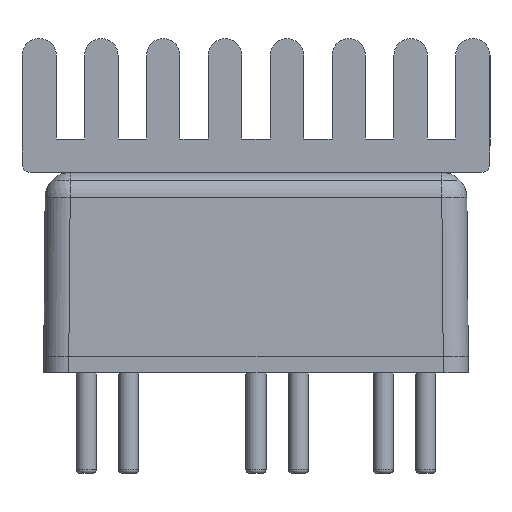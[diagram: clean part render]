
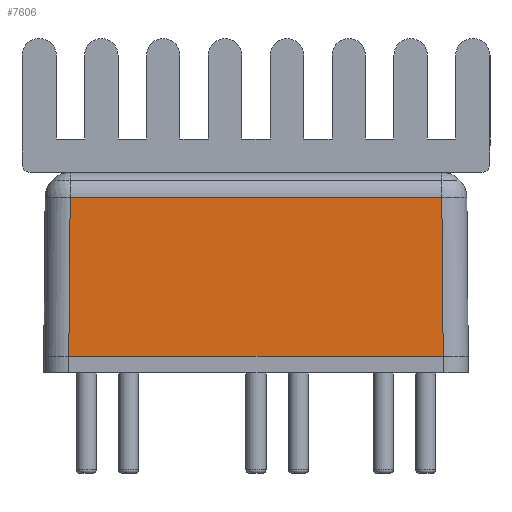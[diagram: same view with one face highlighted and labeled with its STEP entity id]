
A CAD part, left-side view. The second image highlights one B-rep face of the part: STEP entity #7606.
In plain terms, the highlighted planar face has unit normal (-1, 0, 0.009).
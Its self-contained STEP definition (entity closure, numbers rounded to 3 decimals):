
#68=LINE($,#11069,#910);
#69=LINE($,#11071,#911);
#70=LINE($,#11073,#912);
#71=LINE($,#11074,#913);
#910=VECTOR($,#8829,9.514);
#911=VECTOR($,#8830,22.234);
#912=VECTOR($,#8831,9.514);
#913=VECTOR($,#8832,22.4);
#1752=PLANE($,#8075);
#2282=FACE_OUTER_BOUND($,#2732,.T.);
#2732=EDGE_LOOP($,(#5374,#5375,#5376,#5377));
#3508=VERTEX_POINT($,#11067);
#3509=VERTEX_POINT($,#11068);
#3510=VERTEX_POINT($,#11070);
#3511=VERTEX_POINT($,#11072);
#4254=EDGE_CURVE($,#3508,#3509,#68,.T.);
#4255=EDGE_CURVE($,#3510,#3508,#69,.T.);
#4256=EDGE_CURVE($,#3511,#3510,#70,.T.);
#4257=EDGE_CURVE($,#3511,#3509,#71,.T.);
#5374=ORIENTED_EDGE($,*,*,#4254,.F.);
#5375=ORIENTED_EDGE($,*,*,#4255,.F.);
#5376=ORIENTED_EDGE($,*,*,#4256,.F.);
#5377=ORIENTED_EDGE($,*,*,#4257,.T.);
#7606=ADVANCED_FACE($,(#2282),#1752,.T.);
#8075=AXIS2_PLACEMENT_3D($,#11066,#8827,#8828);
#8827=DIRECTION('center_axis',(-1.,0.,
0.009));
#8828=DIRECTION('ref_axis',(0.,-1.,0.));
#8829=DIRECTION($,(-0.009,-0.009,-1.));
#8830=DIRECTION($,(0.,-1.,0.));
#8831=DIRECTION($,(0.009,-0.009,1.));
#8832=DIRECTION($,(0.,-1.,0.));
#11066=CARTESIAN_POINT('Origin',(0.,0.,0.));
#11067=CARTESIAN_POINT('',(0.083,1.583,9.513));
#11068=CARTESIAN_POINT('',(0.,1.5,0.));
#11069=CARTESIAN_POINT($,(0.002,1.502,0.209));
#11070=CARTESIAN_POINT('',(0.083,23.817,9.513));
#11071=CARTESIAN_POINT($,(0.083,6.35,9.513));
#11072=CARTESIAN_POINT('',(0.,23.9,0.));
#11073=CARTESIAN_POINT($,(0.001,23.899,0.098));
#11074=CARTESIAN_POINT($,(0.,25.4,0.));
